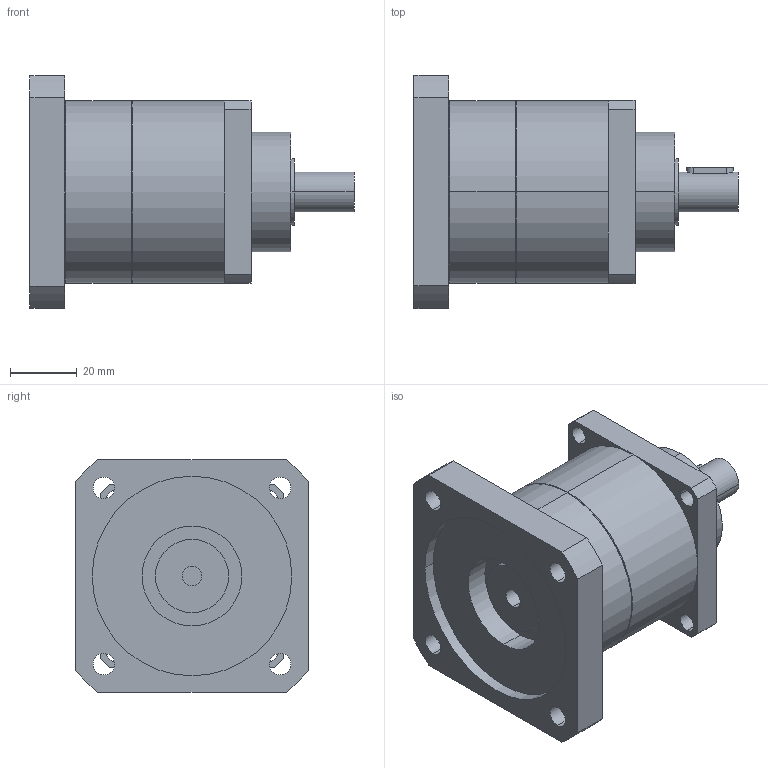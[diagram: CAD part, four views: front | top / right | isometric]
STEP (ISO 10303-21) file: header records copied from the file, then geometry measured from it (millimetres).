
FILE_DESCRIPTION(('CoCreate Modeling STEP Export'),'2;1');
FILE_NAME('GPT55_ig-3-4-5-7-10_12_B5A_6_P04.stp','2014-08-25T14:32:35',(''),(''),'CoCreate Modeling STEP processor for AP214 (Solid Model)','CoCreate Modeling 16.00C 25-Feb-2009 (C) Parametric Technology GmbH','');
FILE_SCHEMA(('AUTOMOTIVE_DESIGN { 1 0 10303 214 1 1 1 1 }'));
Length unit declared in the file: millimetre
Products named in the file (2): GPT55_ig-3-4-5-7-10_12_B5A_6_P04
Assembly tree (1 placements, depth 2):
  GPT55_ig-3-4-5-7-10_12_B5A_6_P04
    GPT55_ig-3-4-5-7-10_12_B5A_6_P04
Bounding box: 97.5 x 70 x 70 mm (x, y, z)
Volume: 186692.9 mm3; surface area: 29021.2 mm2
Topology: 1 solids, 1 shells, 77 faces, 197 edges, 132 vertices
Faces by surface type: cylinder 46, plane 27, cone 4
Entity records: 2480 total; most frequent: CARTESIAN_POINT 703, ORIENTED_EDGE 394, DIRECTION 318, EDGE_CURVE 197, VERTEX_POINT 132, AXIS2_PLACEMENT_3D 117, EDGE_LOOP 103, VECTOR 84
